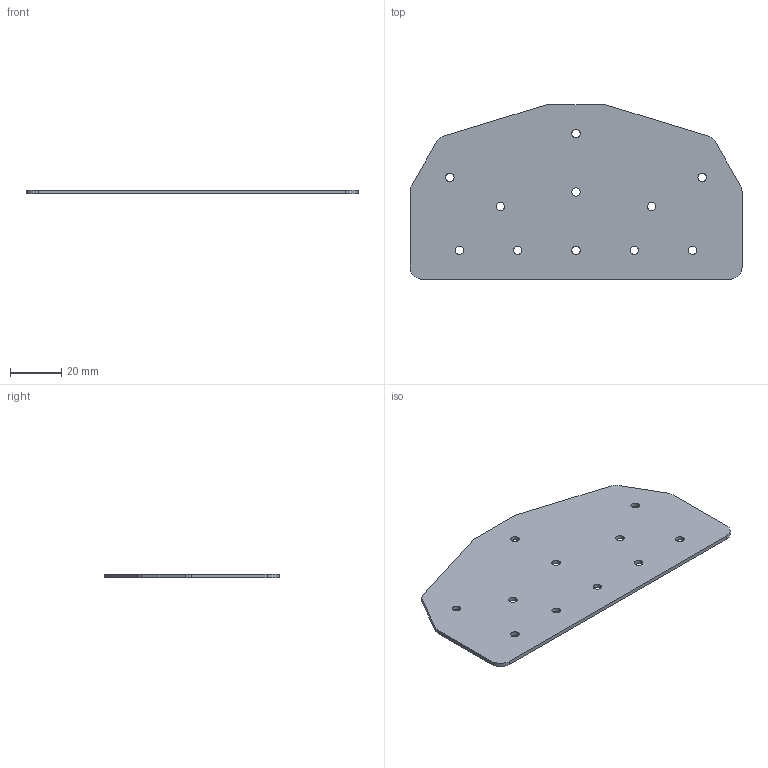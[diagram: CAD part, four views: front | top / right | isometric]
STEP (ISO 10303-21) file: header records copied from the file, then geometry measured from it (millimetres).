
FILE_DESCRIPTION (( 'STEP AP214' ), '1' );
FILE_NAME ('DRP-002-0014-03.step', '2010-06-23T19:15:41', ( '' ), ( '' ), 'SwSTEP 2.0', 'SolidWorks 2010', '' );
FILE_SCHEMA (( 'AUTOMOTIVE_DESIGN' ));
Length unit declared in the file: inch
Products named in the file (1): DRP-002-0014-03
Bounding box: 129.49 x 68.2 x 1.52 mm (x, y, z)
Volume: 11685.1 mm3; surface area: 16045.3 mm2
Topology: 1 solids, 1 shells, 40 faces, 114 edges, 76 vertices
Faces by surface type: cylinder 30, plane 10
Entity records: 1422 total; most frequent: DIRECTION 256, CARTESIAN_POINT 231, ORIENTED_EDGE 228, EDGE_CURVE 114, AXIS2_PLACEMENT_3D 101, VERTEX_POINT 76, EDGE_LOOP 62, CIRCLE 60
